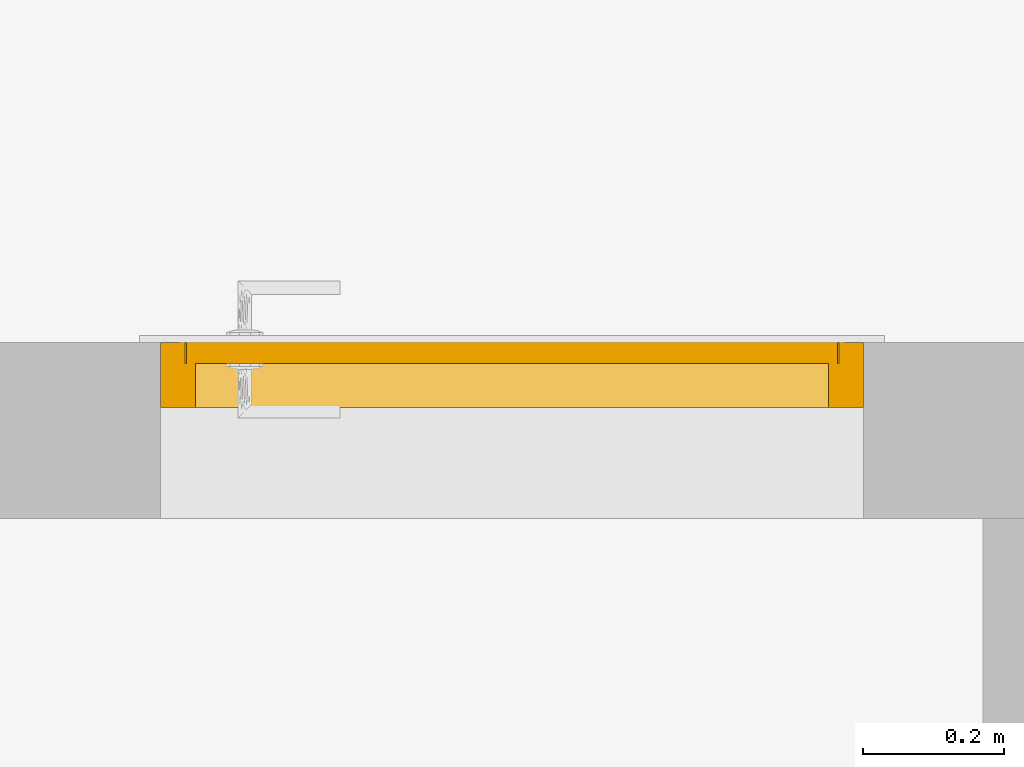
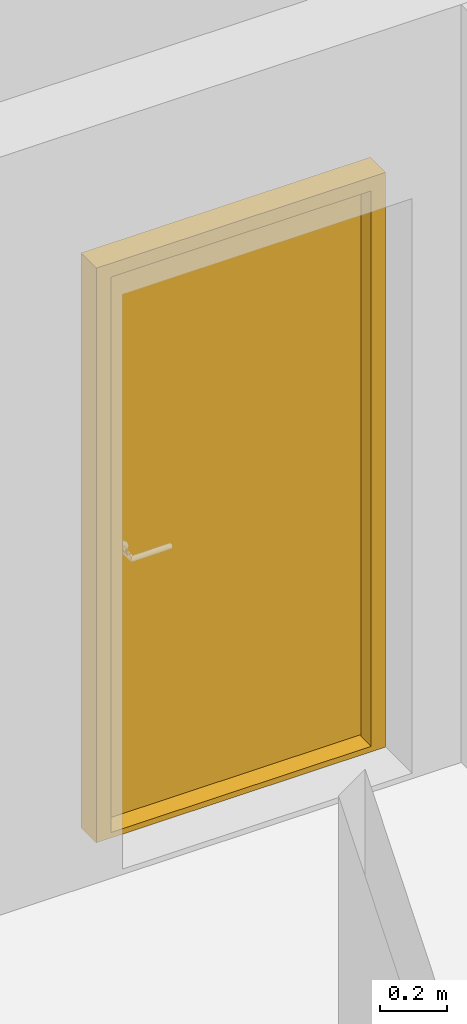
# One storey, part 47 of 125: 1 door.
"""IFC2X3 building model written with IfcOpenShell, lengths in millimetres."""

from ifc_helpers import new_model, entity, si_unit, converted_unit, direction, frame, origin, place, context, subcontext, project, spatial, faceted_brep, source, transform, mapped, material, material_list, type_object, type_shapes, element, save


model = new_model("IFC2X3")

# Units and contexts
model_context = context("Model", 3, precision=0.01, world=origin(), true_north=direction((6.123233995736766e-17, 1.0)))
plan_context = context("Plan", 3, precision=0.01, world=origin(), true_north=direction((6.123233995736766e-17, 1.0)))
body_context = subcontext(model_context, "Body", "Model", "MODEL_VIEW")
ifc_project = project(units=[si_unit("LENGTHUNIT", "METRE", prefix="MILLI"), converted_unit("PLANEANGLEUNIT", "DEGREE", entity("IfcPlaneAngleMeasure", 0.017453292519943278), si_unit("PLANEANGLEUNIT", "RADIAN"), dimensions=[0, 0, 0, 0, 0, 0, 0]), si_unit("AREAUNIT", "SQUARE_METRE")], contexts=[model_context, plan_context])

# Site, building, storey
site_placement = place(None, origin())
site = spatial("IfcSite", under=ifc_project, at=site_placement, Name="Default", CompositionType="ELEMENT")
building_placement = place(site_placement, origin())
building = spatial("IfcBuilding", under=site, at=building_placement, CompositionType="ELEMENT")
storey_placement = place(building_placement, frame((0.0, 0.0, 3125.0)))
storey = spatial("IfcBuildingStorey", under=building, at=storey_placement, Name="2K", CompositionType="ELEMENT", Elevation=3125.0)

# Door
ifc_material_1 = material(Name="<Unnamed>")
ifc_material_2 = material(Name="Default")
ifc_material_list = material_list([ifc_material_1, ifc_material_2])
door_style = type_object("IfcDoorStyle", Name="HR_Generic_Hinged_Single:Default. Manteluks lävepakuga. 1000 x 2100 mm. Left", ConstructionType="NOTDEFINED", OperationType="NOTDEFINED", ParameterTakesPrecedence=False, Sizeable=False, material=ifc_material_list)
shared_shape = source(origin(), body_context, "Body", "Brep", [
    faceted_brep([(965.0, 1092.0, 20.0), (35.0, 1092.0, 20.0), (35.0, 1062.0, 20.0), (50.0, 1062.0, 20.0), (50.0, 1000.0, 20.0), (950.0, 1000.0, 20.0), (950.0, 1062.0, 20.0), (965.0, 1062.0, 20.0), (35.0, 1092.0, 0.0), (965.0, 1092.0, 0.0), (965.0, 1062.0, 0.0), (950.0, 1062.0, 0.0), (950.0, 1000.0, 0.0), (50.0, 1000.0, 0.0), (50.0, 1062.0, 0.0), (35.0, 1062.0, 0.0)], [[[0, 1, 2, 3, 4, 5, 6, 7]], [[8, 9, 10, 11, 12, 13, 14, 15]], [[1, 0, 9, 8]], [[5, 4, 13, 12]], [[2, 1, 8, 15]], [[0, 7, 10, 9]], [[3, 14, 13, 4]], [[14, 3, 2, 15]], [[6, 11, 10, 7]], [[11, 6, 5, 12]]]),
    faceted_brep([(37.0, 1062.0, 2060.0), (37.0, 1062.0, 25.0), (963.0, 1062.0, 25.0), (963.0, 1062.0, 2060.0), (27.0, 1102.0, 25.0), (27.0, 1102.0, 2070.0), (973.0, 1102.0, 2070.0), (973.0, 1102.0, 25.0), (37.0, 1092.0, 2060.0), (37.0, 1092.0, 25.0), (27.0, 1092.0, 25.0), (973.0, 1092.0, 25.0), (963.0, 1092.0, 25.0), (963.0, 1092.0, 2060.0), (27.0, 1092.0, 2070.0), (973.0, 1092.0, 2070.0)], [[[0, 1, 2, 3]], [[4, 5, 6, 7]], [[1, 0, 8, 9]], [[2, 1, 9, 10, 4, 7, 11, 12]], [[3, 2, 12, 13]], [[0, 3, 13, 8]], [[14, 10, 9, 8, 13, 12, 11, 15]], [[6, 5, 14, 15]], [[7, 6, 15, 11]], [[5, 4, 10, 14]]]),
    faceted_brep([(1000.0, 1000.0, 0.0), (950.0, 1000.0, 0.0), (950.0, 1062.0, 0.0), (965.0, 1062.0, 0.0), (965.0, 1092.0, 0.0), (1000.0, 1092.0, 0.0), (1000.0, 1000.0, 2100.0), (0.0, 1000.0, 2100.0), (0.0, 1000.0, 0.0), (50.0, 1000.0, 0.0), (50.0, 1000.0, 2050.0), (950.0, 1000.0, 2050.0), (950.0, 1062.0, 2050.0), (35.0, 1062.0, 2065.0), (965.0, 1062.0, 2065.0), (50.0, 1062.0, 2050.0), (50.0, 1062.0, 0.0), (35.0, 1062.0, 0.0), (965.0, 1092.0, 2065.0), (0.0, 1092.0, 0.0), (0.0, 1092.0, 2100.0), (1000.0, 1092.0, 2100.0), (35.0, 1092.0, 2065.0), (35.0, 1092.0, 0.0)], [[[0, 1, 2, 3, 4, 5]], [[1, 0, 6, 7, 8, 9, 10, 11]], [[1, 11, 12, 2]], [[13, 14, 3, 2, 12, 15, 16, 17]], [[3, 14, 18, 4]], [[19, 20, 21, 5, 4, 18, 22, 23]], [[0, 5, 21, 6]], [[8, 19, 23, 17, 16, 9]], [[19, 8, 7, 20]], [[13, 17, 23, 22]], [[10, 9, 16, 15]], [[7, 6, 21, 20]], [[11, 10, 15, 12]], [[14, 13, 22, 18]]]),
])
type_shapes(door_style, [shared_shape])
door_placement = place(storey_placement, frame((7220.0, 5557.999959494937, 0.0)))
element("IfcDoor", 1, at=door_placement, inside=storey, type_object=door_style, material=ifc_material_list, Name="HR_Generic_Hinged_Single:Default. Manteluks lävepakuga. 1000 x 2100 mm. Left", ObjectType="HR_Generic_Hinged_Single:Default. Manteluks lävepakuga. 1000 x 2100 mm. Left", OverallHeight=2130.000000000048, OverallWidth=1060.0000000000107, context=body_context, shape_type="MappedRepresentation", body=[
    mapped(shared_shape, transform((0.0, 0.0, 0.0), scale=1.0)),
])

save(model, "model.ifc")
